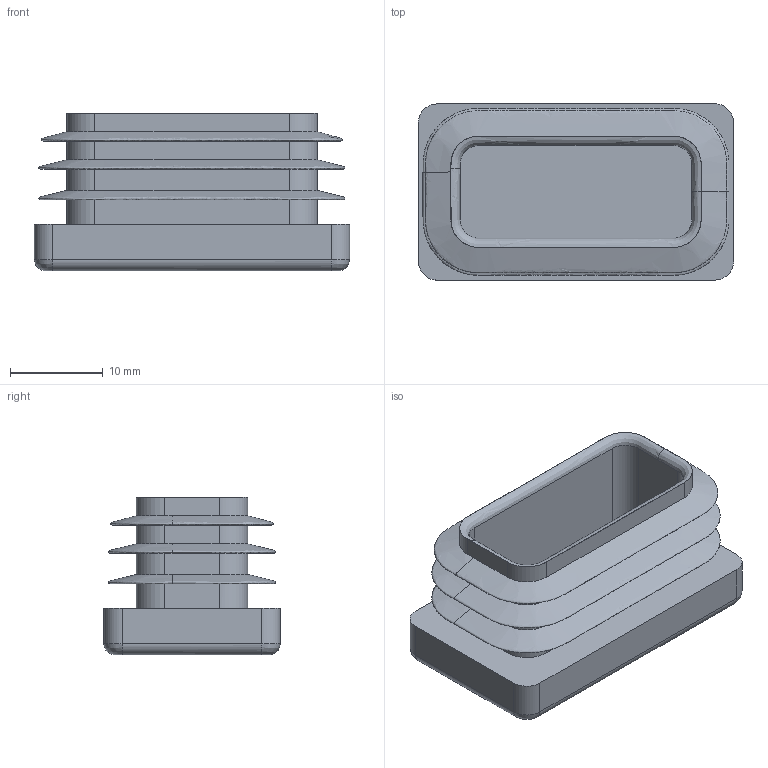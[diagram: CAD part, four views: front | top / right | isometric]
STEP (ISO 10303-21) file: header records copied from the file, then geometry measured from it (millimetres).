
FILE_DESCRIPTION(/* description */ (''),/* implementation_level */ '2;1');
FILE_NAME(/* name */ 'OK4',/* time_stamp */ '2016-08-25T07:27:36+02:00',/* author */ (''),/* organization */ (''),/* preprocessor_version */ 'ST-DEVELOPER v14',/* originating_system */ '',/* authorisation */ '');
FILE_SCHEMA (('CONFIG_CONTROL_DESIGN'));
Length unit declared in the file: millimetre
Products named in the file (1): Document
Bounding box: 34 x 19 x 17 mm (x, y, z)
Volume: 3181.7 mm3; surface area: 4954.5 mm2
Topology: 1 solids, 6 shells, 42 faces, 117 edges, 72 vertices
Faces by surface type: bspline 36, plane 6
Entity records: 5360 total; most frequent: CARTESIAN_POINT 4686, ORIENTED_EDGE 185, EDGE_CURVE 117, VERTEX_POINT 72, B_SPLINE_CURVE_WITH_KNOTS 43, ADVANCED_FACE 42, FACE_OUTER_BOUND 42, EDGE_LOOP 42
